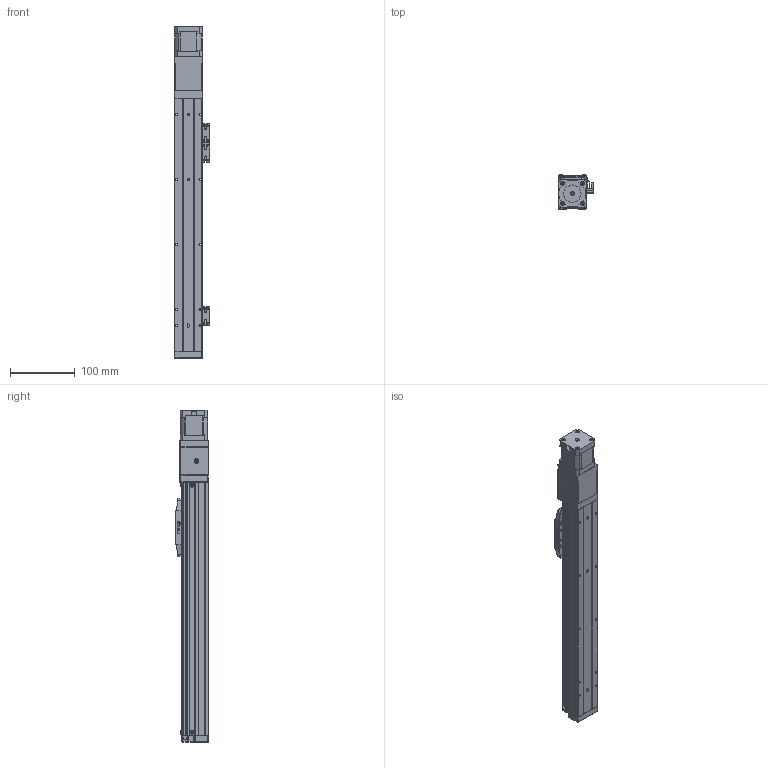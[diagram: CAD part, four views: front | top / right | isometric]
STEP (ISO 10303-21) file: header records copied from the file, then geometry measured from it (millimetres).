
FILE_DESCRIPTION (( 'STEP AP203' ), '1' );
FILE_NAME ('GTH4-250-BC-B42-C4.step', '2023-02-14T00:14:36', ( '微软用户' ), ( '微软中国' ), 'SwSTEP 2.0', 'SolidWorks 2020', '' );
FILE_SCHEMA (( 'CONFIG_CONTROL_DESIGN' ));
Length unit declared in the file: millimetre
Products named in the file (19): BTH40-003; GBT 70.1-M3℅6; BTH40-017; BTH40-006; GBT96.1-2002 3×0.8; BTH40-005-1; BTH-M3X5X6; BTH40-022; 42CM06; GBT70.1-2000 M3×16; GBT 70.1-M2.5×6; GTH4-250-BC-B42-C4; BTH50-028; BTH40-004; BTH50-023; BTH40-013; BTH40-001-50_BTH40-001-250; BTH50-024; GBT 70.3-M3℅6
Assembly tree (49 placements, depth 2):
  GTH4-250-BC-B42-C4
    BTH40-001-50_BTH40-001-250
    BTH40-003
    BTH40-006
    BTH-M3X5X6  x10
    GBT70.1-2000 M3×16  x4
    BTH50-028  x2
    BTH50-023  x3
    BTH50-024  x3
    GBT 70.1-M3℅6  x6
    GBT96.1-2002 3×0.8  x6
    BTH40-022
    GBT 70.1-M2.5×6  x2
    BTH40-004
    BTH40-013
    GBT 70.3-M3℅6  x4
    BTH40-017
    BTH40-005-1
    42CM06
Bounding box: 55.2 x 52 x 511 mm (x, y, z)
Volume: 791193.1 mm3; surface area: 188404.7 mm2
Topology: 58 solids, 58 shells, 3290 faces, 7682 edges, 4612 vertices
Faces by surface type: cone 1475, plane 1112, cylinder 539, torus 128, bspline 24, sphere 12
Entity records: 75386 total; most frequent: DIRECTION 13437, CARTESIAN_POINT 13181, ORIENTED_EDGE 11826, EDGE_CURVE 5913, AXIS2_PLACEMENT_3D 5095, VERTEX_POINT 3543, VECTOR 3247, LINE 3247
